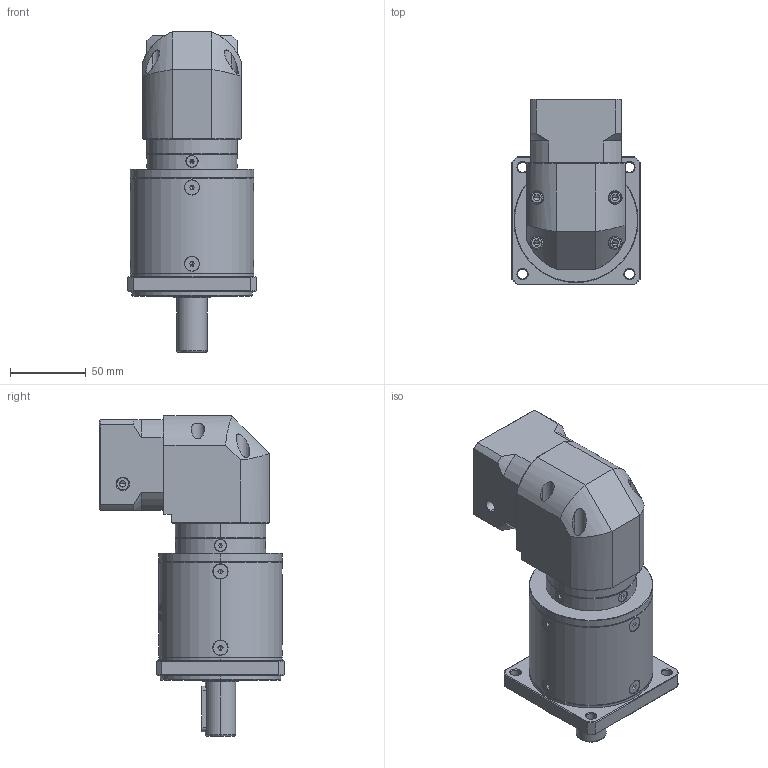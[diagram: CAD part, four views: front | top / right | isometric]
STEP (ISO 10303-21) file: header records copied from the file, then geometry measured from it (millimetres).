
FILE_DESCRIPTION (( 'STEP AP214' ), '1' );
FILE_NAME ('ZFR080-D20-L3-P2-8-30-46-M4.step', '2023-08-25T07:20:15', ( '' ), ( '' ), 'SwSTEP 2.0', 'SolidWorks 2016', '' );
FILE_SCHEMA (( 'AUTOMOTIVE_DESIGN' ));
Length unit declared in the file: millimetre
Products named in the file (1): ZFR080-D20-L3-P2-8-30-46-M4
Bounding box: 85 x 122.7 x 212 mm (x, y, z)
Volume: 895569.6 mm3; surface area: 108802.4 mm2
Topology: 17 solids, 18 shells, 2493 faces, 6547 edges, 4174 vertices
Faces by surface type: plane 1174, bspline 458, cylinder 434, cone 379, torus 48
Entity records: 148460 total; most frequent: CARTESIAN_POINT 64850, ORIENTED_EDGE 13018, DIRECTION 9846, EDGE_CURVE 6509, VERTEX_POINT 4174, VECTOR 3354, LINE 3354, AXIS2_PLACEMENT_3D 3246
